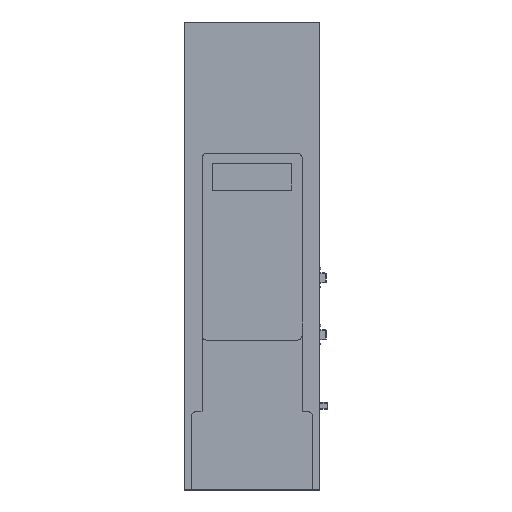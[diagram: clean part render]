
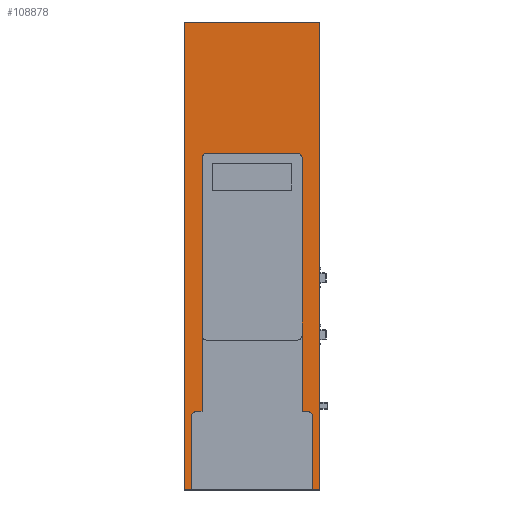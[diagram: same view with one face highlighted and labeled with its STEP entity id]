
A CAD part, top view. The second image highlights one B-rep face of the part: STEP entity #108878.
In plain terms, the highlighted planar face has unit normal (0, 0, 1).
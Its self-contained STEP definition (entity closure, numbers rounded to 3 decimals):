
#108357=DIRECTION('',(1.,0.,0.));
#108358=VECTOR('',#108357,17.);
#108359=CARTESIAN_POINT('',(-8.5,19.515,0.75));
#108360=LINE('',#108359,#108358);
#108361=CARTESIAN_POINT('',(-8.5,18.515,0.75));
#108362=DIRECTION('',(0.,0.,-1.));
#108363=DIRECTION('',(-1.,0.,0.));
#108364=AXIS2_PLACEMENT_3D('',#108361,#108362,#108363);
#108366=DIRECTION('',(0.,1.,0.));
#108367=VECTOR('',#108366,48.);
#108368=CARTESIAN_POINT('',(-9.5,-29.485,0.75));
#108369=LINE('',#108368,#108367);
#108370=CARTESIAN_POINT('',(-10.5,-30.485,0.75));
#108371=DIRECTION('',(0.,0.,-1.));
#108372=DIRECTION('',(-1.,0.,0.));
#108373=AXIS2_PLACEMENT_3D('',#108370,#108371,#108372);
#108375=DIRECTION('',(0.,1.,0.));
#108376=VECTOR('',#108375,13.93);
#108377=CARTESIAN_POINT('',(-11.5,-44.415,0.75));
#108378=LINE('',#108377,#108376);
#108379=DIRECTION('',(1.,0.,0.));
#108380=VECTOR('',#108379,1.36);
#108381=CARTESIAN_POINT('',(-12.86,-44.415,0.75));
#108382=LINE('',#108381,#108380);
#108383=DIRECTION('',(1.,0.,0.));
#108384=VECTOR('',#108383,1.36);
#108385=CARTESIAN_POINT('',(11.5,-44.415,0.75));
#108386=LINE('',#108385,#108384);
#108387=CARTESIAN_POINT('',(10.5,-30.485,0.75));
#108388=DIRECTION('',(0.,0.,-1.));
#108389=DIRECTION('',(0.,1.,0.));
#108390=AXIS2_PLACEMENT_3D('',#108387,#108388,#108389);
#108392=DIRECTION('',(0.,-1.,0.));
#108393=VECTOR('',#108392,48.);
#108394=CARTESIAN_POINT('',(9.5,18.515,0.75));
#108395=LINE('',#108394,#108393);
#108396=CARTESIAN_POINT('',(8.5,18.515,0.75));
#108397=DIRECTION('',(0.,0.,-1.));
#108398=DIRECTION('',(0.,1.,0.));
#108399=AXIS2_PLACEMENT_3D('',#108396,#108397,#108398);
#108429=DIRECTION('',(1.,0.,0.));
#108430=VECTOR('',#108429,1.);
#108431=CARTESIAN_POINT('',(9.5,-29.485,0.75));
#108432=LINE('',#108431,#108430);
#108441=DIRECTION('',(0.,-1.,0.));
#108442=VECTOR('',#108441,13.93);
#108443=CARTESIAN_POINT('',(11.5,-30.485,0.75));
#108444=LINE('',#108443,#108442);
#108477=DIRECTION('',(1.,0.,0.));
#108478=VECTOR('',#108477,1.);
#108479=CARTESIAN_POINT('',(-10.5,-29.485,0.75));
#108480=LINE('',#108479,#108478);
#108493=DIRECTION('',(0.,1.,0.));
#108494=VECTOR('',#108493,88.83);
#108495=CARTESIAN_POINT('',(-12.86,-44.415,0.75));
#108496=LINE('',#108495,#108494);
#108505=DIRECTION('',(1.,0.,0.));
#108506=VECTOR('',#108505,25.72);
#108507=CARTESIAN_POINT('',(-12.86,44.415,0.75));
#108508=LINE('',#108507,#108506);
#108521=DIRECTION('',(0.,-1.,0.));
#108522=VECTOR('',#108521,88.83);
#108523=CARTESIAN_POINT('',(12.86,44.415,0.75));
#108524=LINE('',#108523,#108522);
#108581=CARTESIAN_POINT('',(-9.5,18.515,0.75));
#108582=VERTEX_POINT('',#108581);
#108583=CARTESIAN_POINT('',(-9.5,-29.485,0.75));
#108584=VERTEX_POINT('',#108583);
#108594=CARTESIAN_POINT('',(-11.5,-44.415,0.75));
#108596=VERTEX_POINT('',#108594);
#108599=CARTESIAN_POINT('',(11.5,-44.415,0.75));
#108600=VERTEX_POINT('',#108599);
#108601=CARTESIAN_POINT('',(12.86,-44.415,0.75));
#108602=VERTEX_POINT('',#108601);
#108603=CARTESIAN_POINT('',(-12.86,-44.415,0.75));
#108604=VERTEX_POINT('',#108603);
#108605=CARTESIAN_POINT('',(-11.5,-30.485,0.75));
#108607=VERTEX_POINT('',#108605);
#108611=CARTESIAN_POINT('',(-10.5,-29.485,0.75));
#108612=VERTEX_POINT('',#108611);
#108625=CARTESIAN_POINT('',(9.5,18.515,0.75));
#108626=VERTEX_POINT('',#108625);
#108627=CARTESIAN_POINT('',(9.5,-29.485,0.75));
#108628=VERTEX_POINT('',#108627);
#108629=CARTESIAN_POINT('',(8.5,19.515,0.75));
#108630=VERTEX_POINT('',#108629);
#108631=CARTESIAN_POINT('',(-8.5,19.515,0.75));
#108632=VERTEX_POINT('',#108631);
#108633=CARTESIAN_POINT('',(-12.86,44.415,0.75));
#108634=VERTEX_POINT('',#108633);
#108635=CARTESIAN_POINT('',(12.86,44.415,0.75));
#108636=VERTEX_POINT('',#108635);
#108637=CARTESIAN_POINT('',(11.5,-30.485,0.75));
#108638=VERTEX_POINT('',#108637);
#108639=CARTESIAN_POINT('',(10.5,-29.485,0.75));
#108640=VERTEX_POINT('',#108639);
#108845=CARTESIAN_POINT('',(0.,0.,0.75));
#108846=DIRECTION('',(0.,0.,1.));
#108847=DIRECTION('',(1.,0.,0.));
#108848=AXIS2_PLACEMENT_3D('',#108845,#108846,#108847);
#108849=PLANE('',#108848);
#108851=ORIENTED_EDGE('',*,*,#108850,.F.);
#108852=ORIENTED_EDGE('',*,*,#108837,.F.);
#108853=ORIENTED_EDGE('',*,*,#108826,.F.);
#108855=ORIENTED_EDGE('',*,*,#108854,.F.);
#108856=ORIENTED_EDGE('',*,*,#108777,.F.);
#108857=ORIENTED_EDGE('',*,*,#108764,.F.);
#108858=ORIENTED_EDGE('',*,*,#108749,.F.);
#108860=ORIENTED_EDGE('',*,*,#108859,.T.);
#108862=ORIENTED_EDGE('',*,*,#108861,.T.);
#108864=ORIENTED_EDGE('',*,*,#108863,.T.);
#108865=ORIENTED_EDGE('',*,*,#108737,.F.);
#108867=ORIENTED_EDGE('',*,*,#108866,.F.);
#108869=ORIENTED_EDGE('',*,*,#108868,.F.);
#108871=ORIENTED_EDGE('',*,*,#108870,.F.);
#108873=ORIENTED_EDGE('',*,*,#108872,.F.);
#108875=ORIENTED_EDGE('',*,*,#108874,.F.);
#108876=EDGE_LOOP('',(#108851,#108852,#108853,#108855,#108856,#108857,#108858,
#108860,#108862,#108864,#108865,#108867,#108869,#108871,#108873,#108875));
#108877=FACE_OUTER_BOUND('',#108876,.F.);
#108365=CIRCLE('',#108364,1.);
#108374=CIRCLE('',#108373,1.);
#108391=CIRCLE('',#108390,1.);
#108400=CIRCLE('',#108399,1.);
#108737=EDGE_CURVE('',#108600,#108602,#108386,.T.);
#108749=EDGE_CURVE('',#108604,#108596,#108382,.T.);
#108764=EDGE_CURVE('',#108596,#108607,#108378,.T.);
#108777=EDGE_CURVE('',#108607,#108612,#108374,.T.);
#108826=EDGE_CURVE('',#108584,#108582,#108369,.T.);
#108837=EDGE_CURVE('',#108582,#108632,#108365,.T.);
#108850=EDGE_CURVE('',#108632,#108630,#108360,.T.);
#108854=EDGE_CURVE('',#108612,#108584,#108480,.T.);
#108859=EDGE_CURVE('',#108604,#108634,#108496,.T.);
#108861=EDGE_CURVE('',#108634,#108636,#108508,.T.);
#108863=EDGE_CURVE('',#108636,#108602,#108524,.T.);
#108866=EDGE_CURVE('',#108638,#108600,#108444,.T.);
#108868=EDGE_CURVE('',#108640,#108638,#108391,.T.);
#108870=EDGE_CURVE('',#108628,#108640,#108432,.T.);
#108872=EDGE_CURVE('',#108626,#108628,#108395,.T.);
#108874=EDGE_CURVE('',#108630,#108626,#108400,.T.);
#108878=ADVANCED_FACE('',(#108877),#108849,.T.);
